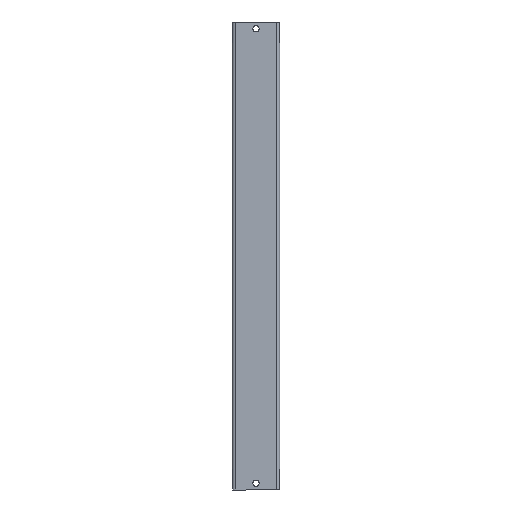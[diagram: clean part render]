
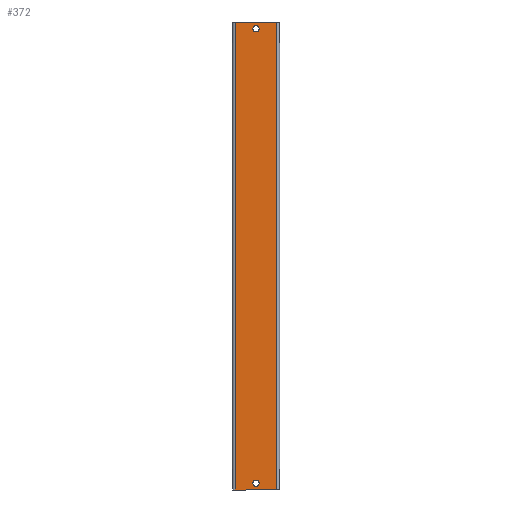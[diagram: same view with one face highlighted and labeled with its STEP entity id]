
A CAD part, front view. The second image highlights one B-rep face of the part: STEP entity #372.
In plain terms, the highlighted planar face has unit normal (0, -1, 0).
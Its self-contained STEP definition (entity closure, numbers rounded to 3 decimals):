
#12 = AXIS2_PLACEMENT_3D ( 'NONE', #1094, #1097, #1096 ) ;
#34 = AXIS2_PLACEMENT_3D ( 'NONE', #289, #282, #181 ) ;
#42 = VECTOR ( 'NONE', #1132, 1000. ) ;
#61 = CIRCLE ( 'NONE', #110, 3.25 ) ;
#69 = CIRCLE ( 'NONE', #128, 3.25 ) ;
#80 = VECTOR ( 'NONE', #1088, 1000. ) ;
#89 = CIRCLE ( 'NONE', #12, 3.25 ) ;
#99 = VECTOR ( 'NONE', #1079, 1000. ) ;
#100 = CIRCLE ( 'NONE', #130, 3.25 ) ;
#110 = AXIS2_PLACEMENT_3D ( 'NONE', #1103, #1108, #1107 ) ;
#128 = AXIS2_PLACEMENT_3D ( 'NONE', #1009, #1008, #1007 ) ;
#130 = AXIS2_PLACEMENT_3D ( 'NONE', #1110, #1109, #1113 ) ;
#150 = VECTOR ( 'NONE', #1117, 1000. ) ;
#181 = DIRECTION ( 'NONE',  ( 0., 0., 1. ) ) ;
#183 = PLANE ( 'NONE',  #34 ) ;
#200 = FACE_OUTER_BOUND ( 'NONE', #944, .T. ) ;
#258 = FACE_BOUND ( 'NONE', #774, .T. ) ;
#267 = FACE_BOUND ( 'NONE', #832, .T. ) ;
#282 = DIRECTION ( 'NONE',  ( 0., 1., 0. ) ) ;
#289 = CARTESIAN_POINT ( 'NONE',  ( -24.5, -10.3, 485. ) ) ;
#328 = EDGE_CURVE ( 'NONE', #946, #950, #69, .T. ) ;
#345 = EDGE_CURVE ( 'NONE', #949, #948, #1081, .T. ) ;
#347 = EDGE_CURVE ( 'NONE', #948, #990, #1078, .T. ) ;
#349 = EDGE_CURVE ( 'NONE', #965, #988, #89, .T. ) ;
#353 = EDGE_CURVE ( 'NONE', #950, #946, #61, .T. ) ;
#354 = EDGE_CURVE ( 'NONE', #988, #965, #100, .T. ) ;
#357 = EDGE_CURVE ( 'NONE', #964, #990, #1106, .T. ) ;
#361 = EDGE_CURVE ( 'NONE', #949, #964, #1130, .T. ) ;
#372 = ADVANCED_FACE ( 'NONE', ( #258, #267, #200 ), #183, .F. ) ;
#502 = CARTESIAN_POINT ( 'NONE',  ( -3.25, -10.3, 7. ) ) ;
#503 = CARTESIAN_POINT ( 'NONE',  ( 21.5, -10.3, 485. ) ) ;
#505 = CARTESIAN_POINT ( 'NONE',  ( -21.5, -10.3, 485. ) ) ;
#506 = CARTESIAN_POINT ( 'NONE',  ( 3.25, -10.3, 7. ) ) ;
#520 = CARTESIAN_POINT ( 'NONE',  ( -21.5, -10.3, 0. ) ) ;
#521 = CARTESIAN_POINT ( 'NONE',  ( -3.25, -10.3, 478. ) ) ;
#540 = CARTESIAN_POINT ( 'NONE',  ( 3.25, -10.3, 478. ) ) ;
#542 = CARTESIAN_POINT ( 'NONE',  ( 21.5, -10.3, 0. ) ) ;
#714 = ORIENTED_EDGE ( 'NONE', *, *, #361, .T. ) ;
#774 = EDGE_LOOP ( 'NONE', ( #815, #811 ) ) ;
#811 = ORIENTED_EDGE ( 'NONE', *, *, #328, .F. ) ;
#815 = ORIENTED_EDGE ( 'NONE', *, *, #353, .F. ) ;
#832 = EDGE_LOOP ( 'NONE', ( #902, #901 ) ) ;
#900 = ORIENTED_EDGE ( 'NONE', *, *, #357, .T. ) ;
#901 = ORIENTED_EDGE ( 'NONE', *, *, #349, .F. ) ;
#902 = ORIENTED_EDGE ( 'NONE', *, *, #354, .F. ) ;
#914 = ORIENTED_EDGE ( 'NONE', *, *, #345, .F. ) ;
#915 = ORIENTED_EDGE ( 'NONE', *, *, #347, .F. ) ;
#944 = EDGE_LOOP ( 'NONE', ( #900, #915, #914, #714 ) ) ;
#946 = VERTEX_POINT ( 'NONE', #502 ) ;
#948 = VERTEX_POINT ( 'NONE', #503 ) ;
#949 = VERTEX_POINT ( 'NONE', #505 ) ;
#950 = VERTEX_POINT ( 'NONE', #506 ) ;
#964 = VERTEX_POINT ( 'NONE', #520 ) ;
#965 = VERTEX_POINT ( 'NONE', #521 ) ;
#988 = VERTEX_POINT ( 'NONE', #540 ) ;
#990 = VERTEX_POINT ( 'NONE', #542 ) ;
#1007 = DIRECTION ( 'NONE',  ( -1., 0., 0. ) ) ;
#1008 = DIRECTION ( 'NONE',  ( 0., -1., 0. ) ) ;
#1009 = CARTESIAN_POINT ( 'NONE',  ( 0., -10.3, 7. ) ) ;
#1078 = LINE ( 'NONE', #1085, #80 ) ;
#1079 = DIRECTION ( 'NONE',  ( 1., 0., 0. ) ) ;
#1080 = CARTESIAN_POINT ( 'NONE',  ( -24.5, -10.3, 485. ) ) ;
#1081 = LINE ( 'NONE', #1080, #99 ) ;
#1085 = CARTESIAN_POINT ( 'NONE',  ( 21.5, -10.3, 485. ) ) ;
#1088 = DIRECTION ( 'NONE',  ( 0., 0., -1. ) ) ;
#1094 = CARTESIAN_POINT ( 'NONE',  ( 0., -10.3, 478. ) ) ;
#1096 = DIRECTION ( 'NONE',  ( 1., 0., 0. ) ) ;
#1097 = DIRECTION ( 'NONE',  ( 0., -1., 0. ) ) ;
#1103 = CARTESIAN_POINT ( 'NONE',  ( 0., -10.3, 7. ) ) ;
#1106 = LINE ( 'NONE', #1111, #150 ) ;
#1107 = DIRECTION ( 'NONE',  ( -1., 0., 0. ) ) ;
#1108 = DIRECTION ( 'NONE',  ( 0., -1., 0. ) ) ;
#1109 = DIRECTION ( 'NONE',  ( 0., -1., 0. ) ) ;
#1110 = CARTESIAN_POINT ( 'NONE',  ( 0., -10.3, 478. ) ) ;
#1111 = CARTESIAN_POINT ( 'NONE',  ( -24.5, -10.3, 0. ) ) ;
#1113 = DIRECTION ( 'NONE',  ( 1., 0., 0. ) ) ;
#1117 = DIRECTION ( 'NONE',  ( 1., 0., 0. ) ) ;
#1128 = CARTESIAN_POINT ( 'NONE',  ( -21.5, -10.3, 485. ) ) ;
#1130 = LINE ( 'NONE', #1128, #42 ) ;
#1132 = DIRECTION ( 'NONE',  ( 0., 0., -1. ) ) ;
